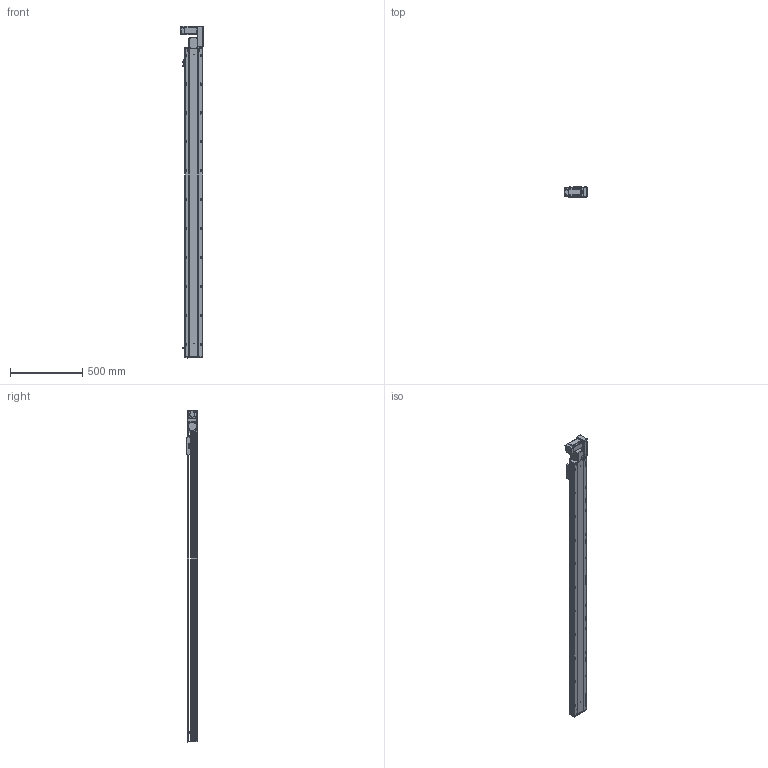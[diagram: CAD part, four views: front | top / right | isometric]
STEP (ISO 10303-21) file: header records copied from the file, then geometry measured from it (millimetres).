
FILE_DESCRIPTION (( 'STEP AP203' ), '1' );
FILE_NAME ('RY120-T-300-RK.SLDASM_1900.step', '2021-03-01T03:55:11', ( '盈信电脑' ), ( '东莞市道滘镇水果街19号' ), 'SwSTEP 2.0', 'SolidWorks 2012', '' );
FILE_SCHEMA (( 'CONFIG_CONTROL_DESIGN' ));
Length unit declared in the file: millimetre
Products named in the file (17): RY120-T-300-RK.SLDASM_1900; RY120-T萇儂欶; RY120-T萇儂假蚾啣; RY120-T蹟翐M4; RY120-T主同步轮轴承压盖; RY120-T翋肮祭謫裔啣; 滅袉蝶18-10; 15; RY120-T肮祭湍揤踡輸1; RY120外置感应片(140共用）; RY120-T肮祭湍揤踡輸2; RY120-T翋肮祭盓傅釱; RY120-T-300-RK倰第奻裔啣_1900; 覜茼ん672; RY120肮祭湍臏賑輸; RY120綴裔啣; RY120-T-300-RK倰第菁釱_1900
Assembly tree (22 placements, depth 2):
  RY120-T-300-RK.SLDASM_1900
    RY120-T-300-RK倰第菁釱_1900
    RY120-T-300-RK倰第奻裔啣_1900
    RY120肮祭湍臏賑輸
    RY120綴裔啣
    覜茼ん672  x3
    RY120外置感应片(140共用）
    RY120-T肮祭湍揤踡輸1
    RY120-T肮祭湍揤踡輸2
    RY120-T翋肮祭盓傅釱
    滅袉蝶18-10  x2
    RY120-T翋肮祭謫裔啣
    15
    RY120-T萇儂假蚾啣
    RY120-T蹟翐M4  x4
    RY120-T萇儂欶
    RY120-T主同步轮轴承压盖
Bounding box: 155.5 x 73 x 2297.5 mm (x, y, z)
Volume: 5586801.1 mm3; surface area: 2131775.6 mm2
Topology: 23 solids, 23 shells, 3108 faces, 8508 edges, 5422 vertices
Faces by surface type: plane 1452, cylinder 1246, cone 321, bspline 89
Entity records: 100057 total; most frequent: CARTESIAN_POINT 26196, ORIENTED_EDGE 15312, DIRECTION 14430, EDGE_CURVE 7656, VERTEX_POINT 5009, AXIS2_PLACEMENT_3D 4903, VECTOR 4624, LINE 4624
